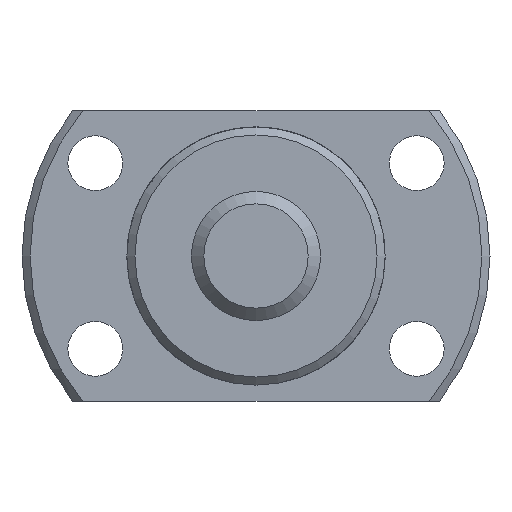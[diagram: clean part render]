
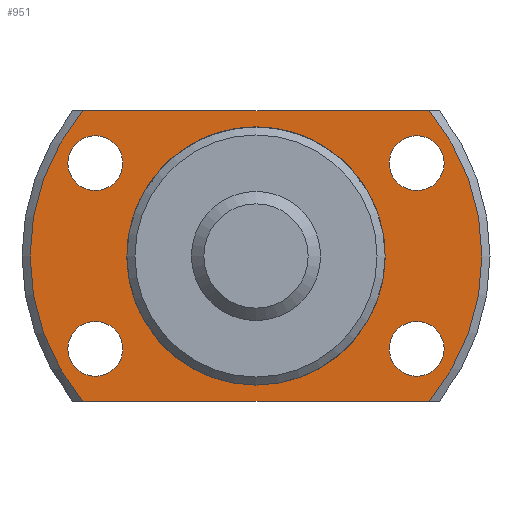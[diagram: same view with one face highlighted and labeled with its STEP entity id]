
A CAD part, left-side view. The second image highlights one B-rep face of the part: STEP entity #951.
In plain terms, the highlighted planar face has unit normal (-1, 0, 0).
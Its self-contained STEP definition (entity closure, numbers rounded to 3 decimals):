
#109=LINE('',#1663,#153);
#110=LINE('',#1667,#154);
#153=VECTOR('',#1318,1000.);
#154=VECTOR('',#1321,1000.);
#279=ORIENTED_EDGE('',*,*,#493,.T.);
#280=ORIENTED_EDGE('',*,*,#494,.T.);
#281=ORIENTED_EDGE('',*,*,#495,.T.);
#282=ORIENTED_EDGE('',*,*,#496,.T.);
#283=ORIENTED_EDGE('',*,*,#482,.F.);
#284=ORIENTED_EDGE('',*,*,#497,.F.);
#285=ORIENTED_EDGE('',*,*,#498,.F.);
#286=ORIENTED_EDGE('',*,*,#499,.F.);
#287=ORIENTED_EDGE('',*,*,#476,.T.);
#476=EDGE_CURVE('',#591,#591,#660,.T.);
#482=EDGE_CURVE('',#596,#597,#663,.T.);
#493=EDGE_CURVE('',#606,#606,#669,.T.);
#494=EDGE_CURVE('',#607,#607,#670,.T.);
#495=EDGE_CURVE('',#608,#608,#671,.T.);
#496=EDGE_CURVE('',#609,#609,#672,.T.);
#497=EDGE_CURVE('',#610,#596,#109,.T.);
#498=EDGE_CURVE('',#611,#610,#673,.T.);
#499=EDGE_CURVE('',#597,#611,#110,.T.);
#591=VERTEX_POINT('',#1606);
#596=VERTEX_POINT('',#1620);
#597=VERTEX_POINT('',#1622);
#606=VERTEX_POINT('',#1656);
#607=VERTEX_POINT('',#1658);
#608=VERTEX_POINT('',#1660);
#609=VERTEX_POINT('',#1662);
#610=VERTEX_POINT('',#1664);
#611=VERTEX_POINT('',#1666);
#660=CIRCLE('',#1066,7.75);
#663=CIRCLE('',#1070,14.);
#669=CIRCLE('',#1081,1.7);
#670=CIRCLE('',#1082,1.7);
#671=CIRCLE('',#1083,1.7);
#672=CIRCLE('',#1084,1.7);
#673=CIRCLE('',#1085,14.);
#739=EDGE_LOOP('',(#279));
#740=EDGE_LOOP('',(#280));
#741=EDGE_LOOP('',(#281));
#742=EDGE_LOOP('',(#282));
#743=EDGE_LOOP('',(#283,#284,#285,#286));
#744=EDGE_LOOP('',(#287));
#837=FACE_BOUND('',#739,.T.);
#838=FACE_BOUND('',#740,.T.);
#839=FACE_BOUND('',#741,.T.);
#840=FACE_BOUND('',#742,.T.);
#841=FACE_BOUND('',#743,.T.);
#842=FACE_BOUND('',#744,.T.);
#901=PLANE('',#1080);
#951=ADVANCED_FACE('',(#837,#838,#839,#840,#841,#842),#901,.F.);
#1066=AXIS2_PLACEMENT_3D('',#1605,#1276,#1277);
#1070=AXIS2_PLACEMENT_3D('',#1621,#1286,#1287);
#1080=AXIS2_PLACEMENT_3D('',#1654,#1308,#1309);
#1081=AXIS2_PLACEMENT_3D('',#1655,#1310,#1311);
#1082=AXIS2_PLACEMENT_3D('',#1657,#1312,#1313);
#1083=AXIS2_PLACEMENT_3D('',#1659,#1314,#1315);
#1084=AXIS2_PLACEMENT_3D('',#1661,#1316,#1317);
#1085=AXIS2_PLACEMENT_3D('',#1665,#1319,#1320);
#1276=DIRECTION('',(1.,0.,0.));
#1277=DIRECTION('',(0.,0.,-1.));
#1286=DIRECTION('',(1.,0.,0.));
#1287=DIRECTION('',(0.,0.,-1.));
#1308=DIRECTION('',(1.,0.,0.));
#1309=DIRECTION('',(0.,0.,-1.));
#1310=DIRECTION('',(1.,0.,0.));
#1311=DIRECTION('',(0.,0.,-1.));
#1312=DIRECTION('',(1.,0.,0.));
#1313=DIRECTION('',(0.,0.,-1.));
#1314=DIRECTION('',(1.,0.,0.));
#1315=DIRECTION('',(0.,0.,-1.));
#1316=DIRECTION('',(1.,0.,0.));
#1317=DIRECTION('',(0.,0.,-1.));
#1318=DIRECTION('',(0.,1.,0.));
#1319=DIRECTION('',(1.,0.,0.));
#1320=DIRECTION('',(0.,0.,-1.));
#1321=DIRECTION('',(0.,-1.,0.));
#1605=CARTESIAN_POINT('',(13.,0.,0.));
#1606=CARTESIAN_POINT('',(13.,0.,-7.75));
#1620=CARTESIAN_POINT('',(13.,10.724,-9.));
#1621=CARTESIAN_POINT('',(13.,0.,0.));
#1622=CARTESIAN_POINT('',(13.,10.724,9.));
#1654=CARTESIAN_POINT('',(13.,7.75,0.));
#1655=CARTESIAN_POINT('',(13.,-9.959,-5.75));
#1656=CARTESIAN_POINT('',(13.,-9.959,-7.45));
#1657=CARTESIAN_POINT('',(13.,-9.959,5.75));
#1658=CARTESIAN_POINT('',(13.,-9.959,4.05));
#1659=CARTESIAN_POINT('',(13.,9.959,-5.75));
#1660=CARTESIAN_POINT('',(13.,9.959,-7.45));
#1661=CARTESIAN_POINT('',(13.,9.959,5.75));
#1662=CARTESIAN_POINT('',(13.,9.959,4.05));
#1663=CARTESIAN_POINT('',(13.,-19.5,-9.));
#1664=CARTESIAN_POINT('',(13.,-10.724,-9.));
#1665=CARTESIAN_POINT('',(13.,0.,0.));
#1666=CARTESIAN_POINT('',(13.,-10.724,9.));
#1667=CARTESIAN_POINT('',(13.,19.5,9.));
